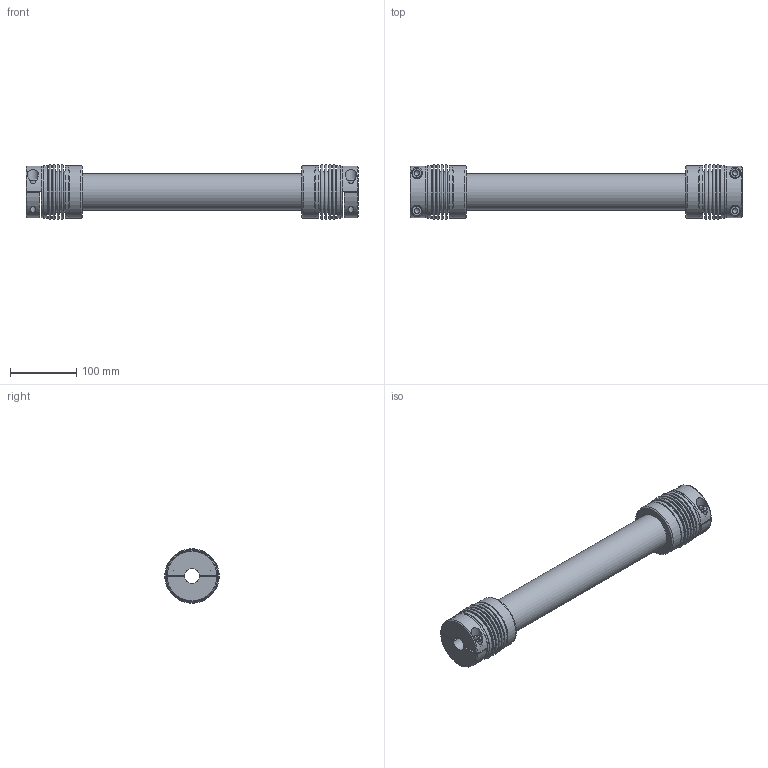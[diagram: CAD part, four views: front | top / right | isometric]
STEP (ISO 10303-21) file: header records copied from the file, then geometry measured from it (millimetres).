
FILE_DESCRIPTION( ( 'Unknown' ), '1' );
FILE_NAME( 'F:/JAKOB-STEP+IGES-Dateien/STEP-Dateien/WDE/WDE 160 - L=0,5m.stp', 'Unknown', ( 'Unknown' ), ( 'Unknown' ), 'PSStep 10.1', 'Unknown', ' ' );
FILE_SCHEMA( ( 'AUTOMOTIVE_DESIGN { 1 0 10303 214 1 1 1 1 }' ) );
Length unit declared in the file: millimetre
Products named in the file (1): WDE 160
Bounding box: 500 x 82 x 82 mm (x, y, z)
Volume: 520189.8 mm3; surface area: 286399.6 mm2
Topology: 1 solids, 1 shells, 246 faces, 506 edges, 332 vertices
Faces by surface type: plane 140, torus 52, cylinder 50, cone 4
Full cylindrical faces by diameter (mm): 8.5 x4, 10 x4, 10.4 x4, 16 x4, 17 x4, 50 x1, 55 x3, 58.371 x2, 59.643 x2, 77.3 x4, 78.5 x4, 79 x2
Entity records: 8600 total; most frequent: CARTESIAN_POINT 1797, DIRECTION 1058, ORIENTED_EDGE 768, AXIS2_PLACEMENT_3D 453, EDGE_LOOP 408, EDGE_CURVE 384, FACE_OUTER_BOUND 328, VERTEX_POINT 300
